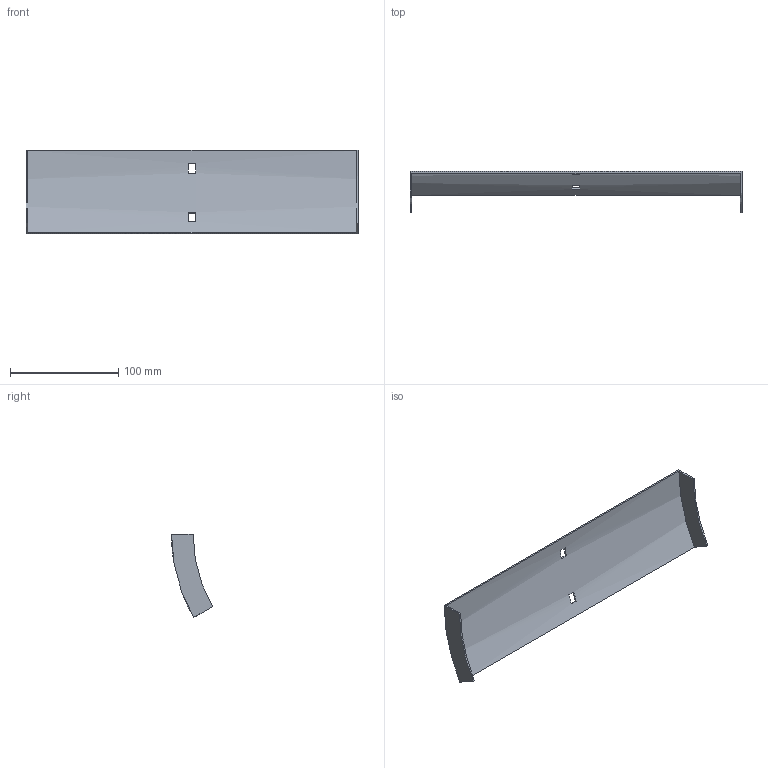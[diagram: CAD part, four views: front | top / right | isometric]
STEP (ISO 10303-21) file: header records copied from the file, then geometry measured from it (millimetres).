
FILE_DESCRIPTION (( 'STEP AP214' ), '1' );
FILE_NAME ('35N1B300.step', '2025-02-21T09:12:02', ( '' ), ( '' ), 'SwSTEP 2.0', 'SolidWorks 2023', '' );
FILE_SCHEMA (( 'AUTOMOTIVE_DESIGN' ));
Length unit declared in the file: millimetre
Products named in the file (1): 35N1B300
Bounding box: 307 x 37.89 x 76.75 mm (x, y, z)
Volume: 40802.4 mm3; surface area: 55739.6 mm2
Topology: 1 solids, 1 shells, 18 faces, 48 edges, 32 vertices
Faces by surface type: plane 14, cylinder 4
Entity records: 599 total; most frequent: DIRECTION 102, CARTESIAN_POINT 99, ORIENTED_EDGE 96, EDGE_CURVE 48, AXIS2_PLACEMENT_3D 35, VECTOR 32, VERTEX_POINT 32, LINE 32
